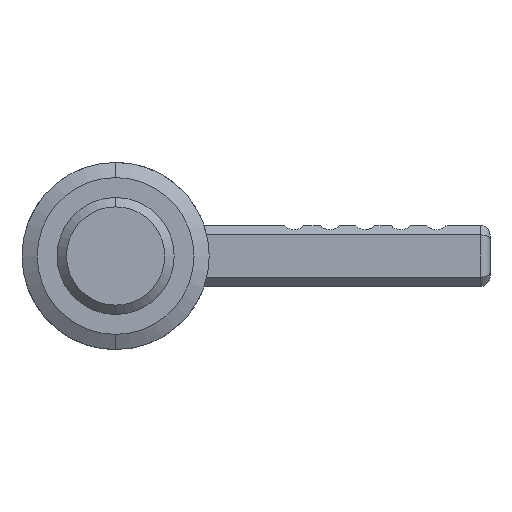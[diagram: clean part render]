
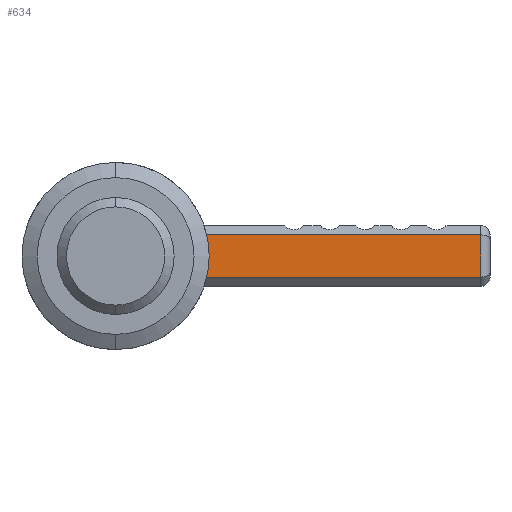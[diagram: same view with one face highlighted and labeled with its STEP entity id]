
A CAD part, front view. The second image highlights one B-rep face of the part: STEP entity #634.
In plain terms, the highlighted planar face has unit normal (0, -1, 0).
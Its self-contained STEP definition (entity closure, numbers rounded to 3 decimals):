
#1 = VERTEX_POINT ( 'NONE', #37 ) ;
#5 = EDGE_CURVE ( 'NONE', #26, #4596, #714, .T. ) ;
#26 = VERTEX_POINT ( 'NONE', #746 ) ;
#37 = CARTESIAN_POINT ( 'NONE',  ( 3.625, 40., -2.493 ) ) ;
#462 = VERTEX_POINT ( 'NONE', #1484 ) ;
#463 = VERTEX_POINT ( 'NONE', #1483 ) ;
#466 = EDGE_CURVE ( 'NONE', #462, #463, #1482, .T. ) ;
#618 = VERTEX_POINT ( 'NONE', #1763 ) ;
#619 = ORIENTED_EDGE ( 'NONE', *, *, #620, .T. ) ;
#620 = EDGE_CURVE ( 'NONE', #618, #621, #1762, .T. ) ;
#621 = VERTEX_POINT ( 'NONE', #1758 ) ;
#622 = ORIENTED_EDGE ( 'NONE', *, *, #623, .T. ) ;
#623 = EDGE_CURVE ( 'NONE', #621, #624, #1757, .T. ) ;
#624 = VERTEX_POINT ( 'NONE', #1752 ) ;
#625 = ORIENTED_EDGE ( 'NONE', *, *, #626, .T. ) ;
#626 = EDGE_CURVE ( 'NONE', #624, #26, #1750, .T. ) ;
#627 = ORIENTED_EDGE ( 'NONE', *, *, #5, .T. ) ;
#628 = ORIENTED_EDGE ( 'NONE', *, *, #4598, .T. ) ;
#629 = ORIENTED_EDGE ( 'NONE', *, *, #689, .T. ) ;
#631 = EDGE_CURVE ( 'NONE', #463, #462, #1811, .T. ) ;
#634 = ADVANCED_FACE ( 'NONE', ( #1807, #1806 ), #1805, .F. ) ;
#635 = EDGE_LOOP ( 'NONE', ( #636, #637 ) ) ;
#636 = ORIENTED_EDGE ( 'NONE', *, *, #466, .F. ) ;
#637 = ORIENTED_EDGE ( 'NONE', *, *, #631, .F. ) ;
#638 = EDGE_LOOP ( 'NONE', ( #639, #643, #619, #622, #625, #627, #628, #629 ) ) ;
#639 = ORIENTED_EDGE ( 'NONE', *, *, #640, .T. ) ;
#640 = EDGE_CURVE ( 'NONE', #641, #642, #1800, .T. ) ;
#641 = VERTEX_POINT ( 'NONE', #1796 ) ;
#642 = VERTEX_POINT ( 'NONE', #1795 ) ;
#643 = ORIENTED_EDGE ( 'NONE', *, *, #644, .T. ) ;
#644 = EDGE_CURVE ( 'NONE', #642, #618, #1794, .T. ) ;
#689 = EDGE_CURVE ( 'NONE', #1, #641, #1893, .T. ) ;
#710 = DIRECTION ( 'NONE',  ( 0., 0., 1. ) ) ;
#711 = DIRECTION ( 'NONE',  ( 0., -1., 0. ) ) ;
#712 = CARTESIAN_POINT ( 'NONE',  ( 0., 40., 0. ) ) ;
#713 = AXIS2_PLACEMENT_3D ( 'NONE', #712, #711, #710 ) ;
#714 = CIRCLE ( 'NONE', #713, 4.399 ) ;
#746 = CARTESIAN_POINT ( 'NONE',  ( 0., 40., 4.399 ) ) ;
#1478 = DIRECTION ( 'NONE',  ( 0., 0., -1. ) ) ;
#1479 = DIRECTION ( 'NONE',  ( 0., -1., 0. ) ) ;
#1480 = CARTESIAN_POINT ( 'NONE',  ( 0., 40., 0. ) ) ;
#1481 = AXIS2_PLACEMENT_3D ( 'NONE', #1480, #1479, #1478 ) ;
#1482 = CIRCLE ( 'NONE', #1481, 3.75 ) ;
#1483 = CARTESIAN_POINT ( 'NONE',  ( 0., 40., 3.75 ) ) ;
#1484 = CARTESIAN_POINT ( 'NONE',  ( 0., 40., -3.75 ) ) ;
#1746 = DIRECTION ( 'NONE',  ( 0., 0., 1. ) ) ;
#1747 = DIRECTION ( 'NONE',  ( 0., -1., 0. ) ) ;
#1748 = CARTESIAN_POINT ( 'NONE',  ( 0., 40., 0. ) ) ;
#1749 = AXIS2_PLACEMENT_3D ( 'NONE', #1748, #1747, #1746 ) ;
#1750 = CIRCLE ( 'NONE', #1749, 4.399 ) ;
#1751 = CARTESIAN_POINT ( 'NONE',  ( 0., 40., 0. ) ) ;
#1752 = CARTESIAN_POINT ( 'NONE',  ( 3.625, 40., 2.493 ) ) ;
#1753 = DIRECTION ( 'NONE',  ( 0., 0., 1. ) ) ;
#1754 = DIRECTION ( 'NONE',  ( 0., 1., 0. ) ) ;
#1755 = CARTESIAN_POINT ( 'NONE',  ( 4.944, 40., 3.401 ) ) ;
#1756 = AXIS2_PLACEMENT_3D ( 'NONE', #1755, #1754, #1753 ) ;
#1757 = CIRCLE ( 'NONE', #1756, 1.602 ) ;
#1758 = CARTESIAN_POINT ( 'NONE',  ( 4.944, 40., 1.799 ) ) ;
#1759 = DIRECTION ( 'NONE',  ( -1., 0., 0. ) ) ;
#1760 = VECTOR ( 'NONE', #1759, 1000. ) ;
#1761 = CARTESIAN_POINT ( 'NONE',  ( 4.944, 40., 1.799 ) ) ;
#1762 = LINE ( 'NONE', #1761, #1760 ) ;
#1763 = CARTESIAN_POINT ( 'NONE',  ( 31.199, 40., 1.799 ) ) ;
#1791 = DIRECTION ( 'NONE',  ( 0., 0., 1. ) ) ;
#1792 = VECTOR ( 'NONE', #1791, 1000. ) ;
#1793 = CARTESIAN_POINT ( 'NONE',  ( 31.199, 40., 1.799 ) ) ;
#1794 = LINE ( 'NONE', #1793, #1792 ) ;
#1795 = CARTESIAN_POINT ( 'NONE',  ( 31.199, 40., -1.799 ) ) ;
#1796 = CARTESIAN_POINT ( 'NONE',  ( 4.944, 40., -1.799 ) ) ;
#1797 = DIRECTION ( 'NONE',  ( 1., 0., 0. ) ) ;
#1798 = VECTOR ( 'NONE', #1797, 1000. ) ;
#1799 = CARTESIAN_POINT ( 'NONE',  ( 32., 40., -1.799 ) ) ;
#1800 = LINE ( 'NONE', #1799, #1798 ) ;
#1801 = DIRECTION ( 'NONE',  ( 0., 0., 1. ) ) ;
#1802 = DIRECTION ( 'NONE',  ( 0., 1., 0. ) ) ;
#1803 = CARTESIAN_POINT ( 'NONE',  ( -3.75, 40., 0. ) ) ;
#1804 = AXIS2_PLACEMENT_3D ( 'NONE', #1803, #1802, #1801 ) ;
#1805 = PLANE ( 'NONE',  #1804 ) ;
#1806 = FACE_OUTER_BOUND ( 'NONE', #638, .T. ) ;
#1807 = FACE_BOUND ( 'NONE', #635, .T. ) ;
#1808 = DIRECTION ( 'NONE',  ( 0., 0., -1. ) ) ;
#1809 = DIRECTION ( 'NONE',  ( 0., -1., 0. ) ) ;
#1810 = AXIS2_PLACEMENT_3D ( 'NONE', #1751, #1809, #1808 ) ;
#1811 = CIRCLE ( 'NONE', #1810, 3.75 ) ;
#1889 = DIRECTION ( 'NONE',  ( 0., 0., 1. ) ) ;
#1890 = DIRECTION ( 'NONE',  ( 0., 1., 0. ) ) ;
#1891 = CARTESIAN_POINT ( 'NONE',  ( 4.944, 40., -3.401 ) ) ;
#1892 = AXIS2_PLACEMENT_3D ( 'NONE', #1891, #1890, #1889 ) ;
#1893 = CIRCLE ( 'NONE', #1892, 1.602 ) ;
#4018 = CARTESIAN_POINT ( 'NONE',  ( 0., 40., 0. ) ) ;
#4025 = CARTESIAN_POINT ( 'NONE',  ( 0., 40., -4.399 ) ) ;
#4073 = DIRECTION ( 'NONE',  ( 0., 0., 1. ) ) ;
#4074 = DIRECTION ( 'NONE',  ( 0., -1., 0. ) ) ;
#4075 = AXIS2_PLACEMENT_3D ( 'NONE', #4018, #4074, #4073 ) ;
#4076 = CIRCLE ( 'NONE', #4075, 4.399 ) ;
#4596 = VERTEX_POINT ( 'NONE', #4025 ) ;
#4598 = EDGE_CURVE ( 'NONE', #4596, #1, #4076, .T. ) ;
